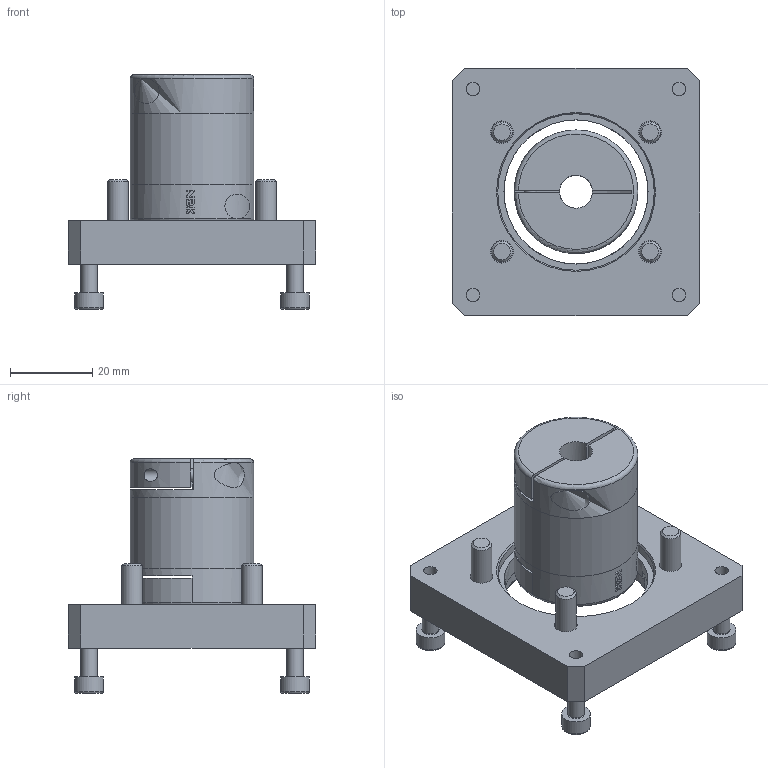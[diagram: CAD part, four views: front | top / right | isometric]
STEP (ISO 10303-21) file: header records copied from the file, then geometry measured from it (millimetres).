
FILE_DESCRIPTION(/* description */ (''),/* implementation_level */ '2;1');
FILE_NAME(/* name */ 'C:\ホームページ用データ\\X2\307E305A30533053306B\X0\\J08089.stp',/* time_stamp */ '2015-04-07T15:02:58+09:00',/* author */ ('jp4te01'),/* organization */ (''),/* preprocessor_version */ 'ST-DEVELOPER v15.2',/* originating_system */ 'Autodesk Inventor 2014',/* authorisation */ '');
FILE_SCHEMA (('AUTOMOTIVE_DESIGN { 1 0 10303 214 3 1 1 }'));
Length unit declared in the file: millimetre
Products named in the file (5): J08085; コピー版 JIS B 1176 - M5 x 15; XGT2-30C - 8x10; コピー版 JIS B 1176 - M4 x 15; J08089
Bounding box: 60 x 60 x 57 mm (x, y, z)
Volume: 49381.5 mm3; surface area: 23686.6 mm2
Topology: 14 solids, 16 shells, 289 faces, 692 edges, 449 vertices
Faces by surface type: plane 176, cylinder 70, cone 25, torus 18
Full cylindrical faces by diameter (mm): 3 x4, 3.242 x4, 3.5 x2, 4 x4, 5 x4, 5.5 x6, 6 x2, 7 x4, 8 x1, 8.5 x4, 10 x1, 11 x1, 30 x3, 35 x1, 38 x1
Entity records: 5995 total; most frequent: CARTESIAN_POINT 1278, DIRECTION 940, ORIENTED_EDGE 860, EDGE_CURVE 430, AXIS2_PLACEMENT_3D 344, VERTEX_POINT 308, EDGE_LOOP 276, LINE 252
